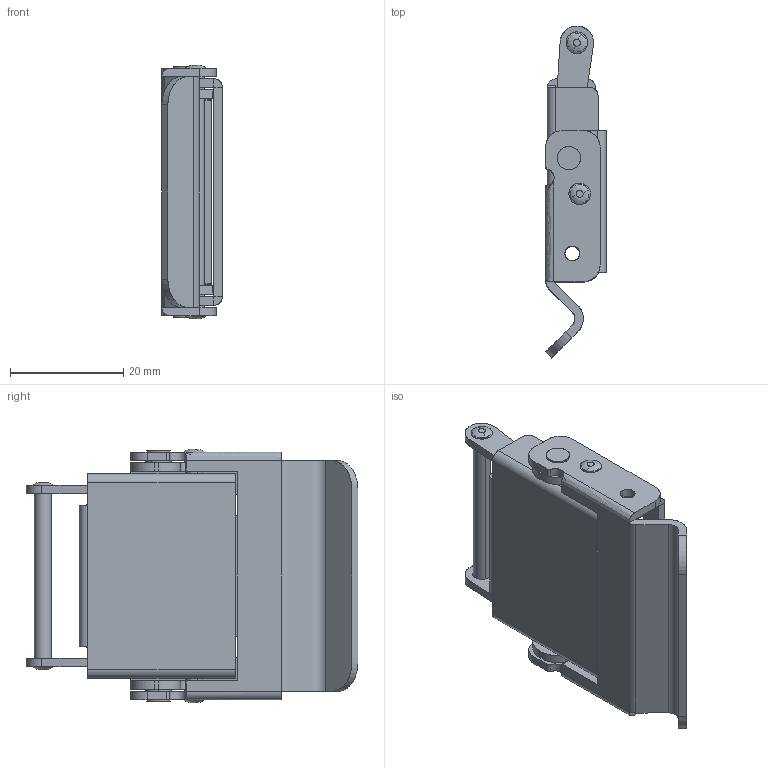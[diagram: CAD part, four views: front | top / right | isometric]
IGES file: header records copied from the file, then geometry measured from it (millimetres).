
Start section: SolidWorks IGES FILE using analytic representation for surfaces
Global section: file name: C:\Documents and Settings\lecoutey\Bureau\GP 2013\GP 2013.IGS; native system: SolidWorks 2004 by SolidWorks Corporation; preprocessor: Version 5.3; author: lecoutey; date: 050329.161802; units: millimetre
Bounding box: 10.7 x 58.52 x 44.7 mm (x, y, z)
Surface area: 13869.4 mm2 (no closed solid volume)
Topology: 0 solids, 0 shells, 265 faces, 4186 edges, 4186 vertices
Faces by surface type: bspline 148, revolution 117
